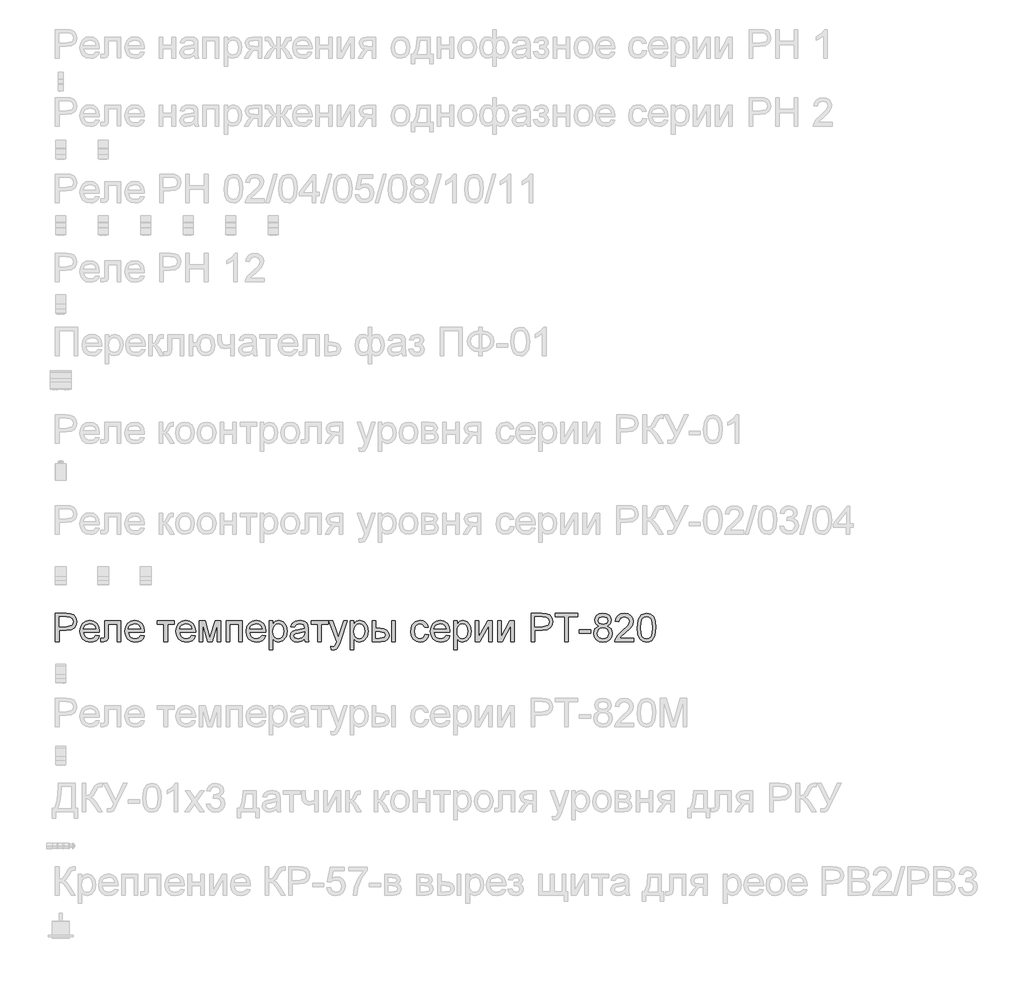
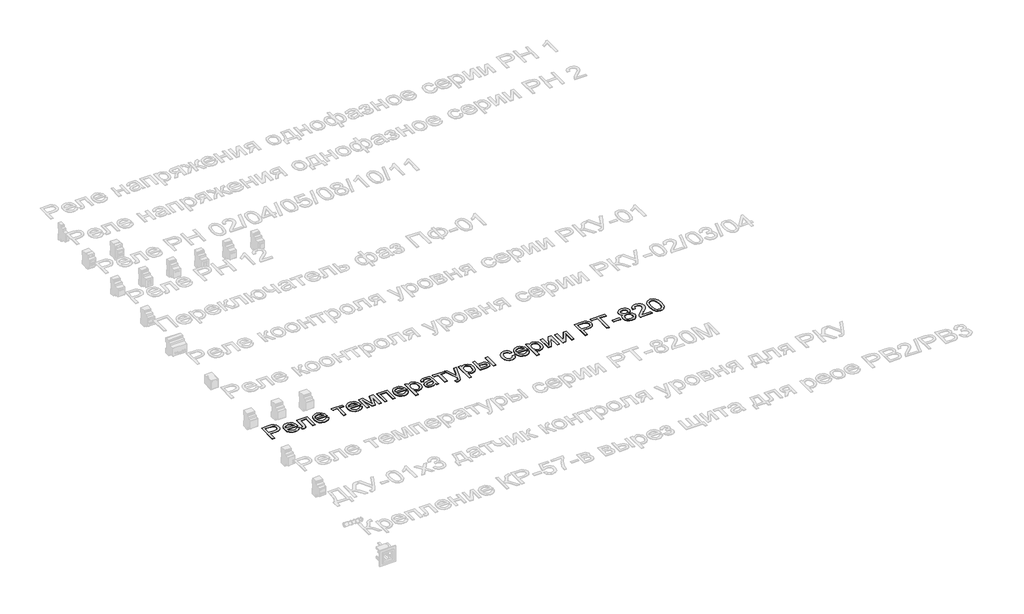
# One storey, part 6 of 34: 1 proxy.
"""IFC4 building model written with IfcOpenShell, lengths in millimetres."""

from ifc_helpers import new_model, si_unit, frame, origin, place, context, project, spatial, polyline, outline, extrude, element, save

model = new_model("IFC4")

# Units and contexts
model_context = context("Model", 3, world=origin())
ifc_project = project(units=[si_unit("LENGTHUNIT", "METRE", prefix="MILLI")], contexts=[model_context])

# Site, building, storey
site = spatial("IfcSite", under=ifc_project)
building = spatial("IfcBuilding", under=site)
storey = spatial("IfcBuildingStorey", under=building, Name="Этаж 01", Elevation=0.0)

# Proxy
placement = place(None, origin())
element("IfcBuildingElementProxy", 1, Name="Надпись на модели 1", ObjectType="Надпись на модели 1", at=placement, inside=storey, context=model_context, shape_type="SweptSolid", body=[
    extrude(outline(polyline([(-19039.0125911, 8386.235284), (-19039.0125911, 8486.6915941), (-19001.7829332, 8486.6915941), (-18986.7733478, 8485.735101), (-18974.5719283, 8481.0384742), (-18966.6624654, 8471.3263895), (-18963.6703585, 8457.6289165), (-18965.6906438, 8445.7892476), (-18971.7514996, 8435.9238788), (-18983.0853308, 8429.2652147), (-19000.9245418, 8427.04566), (-19026.4555523, 8427.04566), (-19026.4555523, 8386.235284), (-19039.0125911, 8386.235284)]), holes=[polyline([(-19026.4555523, 8439.6026988), (-19000.1887779, 8439.6026988), (-18981.6965762, 8444.2134864), (-18977.594692, 8449.7623732), (-18976.2273972, 8457.1874581), (-18979.4524961, 8467.5862559), (-18987.9260447, 8473.2761641), (-19000.4830834, 8474.1345554), (-19026.4555523, 8474.1345554), (-19026.4555523, 8439.6026988)])]), frame((0.0, 0.0, 40.0), z_axis=(0.0, 0.0, 1.0), x_axis=(1.0, 0.0, 0.0)), (0.0, 0.0, 1.0), 2.0),
    extrude(outline(polyline([(-18896.3234279, 8408.2101018), (-18884.0116438, 8406.640472), (-18888.4476875, 8397.3637143), (-18895.5263502, 8390.4291387), (-18905.0882164, 8386.1065253), (-18916.9738705, 8384.6656541), (-18931.7075445, 8387.1519233), (-18943.0444413, 8394.6107308), (-18950.2733225, 8406.5576985), (-18952.6829495, 8422.5084487), (-18950.248797, 8438.9956935), (-18942.9463394, 8451.3258717), (-18931.7627268, 8459.0146054), (-18917.6851091, 8461.5775166), (-18904.0458841, 8459.0207367), (-18893.14738, 8451.3503971), (-18886.0012722, 8439.0447444), (-18883.6192363, 8422.5820251), (-18883.6928127, 8419.1975108), (-18940.1259108, 8419.1975108), (-18937.9523413, 8409.7981258), (-18932.9031609, 8402.8880756), (-18925.6160317, 8398.6390386), (-18916.7286159, 8397.2226929), (-18904.4168318, 8399.8469178), (-18896.3234279, 8408.2101018)]), holes=[polyline([(-18940.1259108, 8431.7545495), (-18896.1762751, 8431.7545495), (-18901.2039957, 8443.1343659), (-18908.5248474, 8447.5489499), (-18917.73416, 8449.0204778), (-18933.1974665, 8444.323851), (-18938.0627059, 8438.8332123), (-18940.1259108, 8431.7545495)])]), frame((0.0, 0.0, 40.0), z_axis=(0.0, 0.0, 1.0), x_axis=(1.0, 0.0, 0.0)), (0.0, 0.0, 1.0), 2.0),
    extrude(outline(polyline([(-18864.7836782, 8460.0078868), (-18808.2770037, 8460.0078868), (-18808.2770037, 8386.3088604), (-18820.8340425, 8386.3088604), (-18820.8340425, 8447.450848), (-18852.2266394, 8447.450848), (-18852.2266394, 8412.2568038), (-18853.072768, 8396.0209451), (-18857.7203439, 8389.1660772), (-18868.7077528, 8386.235284), (-18878.9103468, 8386.8729461), (-18878.9103468, 8398.7923228), (-18873.294015, 8398.7923228), (-18867.6163695, 8399.564875), (-18865.3477639, 8402.0174216), (-18864.7836782, 8412.9680423), (-18864.7836782, 8460.0078868)])), frame((0.0, 0.0, 40.0), z_axis=(0.0, 0.0, 1.0), x_axis=(1.0, 0.0, 0.0)), (0.0, 0.0, 1.0), 2.0),
    extrude(outline(polyline([(-18737.7908134, 8408.2101018), (-18725.4790293, 8406.640472), (-18729.915073, 8397.3637143), (-18736.9937358, 8390.4291387), (-18746.555602, 8386.1065253), (-18758.4412561, 8384.6656541), (-18773.17493, 8387.1519233), (-18784.5118268, 8394.6107308), (-18791.740708, 8406.5576985), (-18794.1503351, 8422.5084487), (-18791.7161826, 8438.9956935), (-18784.4137249, 8451.3258717), (-18773.2301123, 8459.0146054), (-18759.1524946, 8461.5775166), (-18745.5132696, 8459.0207367), (-18734.6147655, 8451.3503971), (-18727.4686578, 8439.0447444), (-18725.0866219, 8422.5820251), (-18725.1601983, 8419.1975108), (-18781.5932963, 8419.1975108), (-18779.4197269, 8409.7981258), (-18774.3705465, 8402.8880756), (-18767.0834173, 8398.6390386), (-18758.1960014, 8397.2226929), (-18745.8842173, 8399.8469178), (-18737.7908134, 8408.2101018)]), holes=[polyline([(-18781.5932963, 8431.7545495), (-18737.6436606, 8431.7545495), (-18742.6713812, 8443.1343659), (-18749.9922329, 8447.5489499), (-18759.2015455, 8449.0204778), (-18774.6648521, 8444.323851), (-18779.5300915, 8438.8332123), (-18781.5932963, 8431.7545495)])]), frame((0.0, 0.0, 40.0), z_axis=(0.0, 0.0, 1.0), x_axis=(1.0, 0.0, 0.0)), (0.0, 0.0, 1.0), 2.0),
    extrude(outline(polyline([(-18679.5673563, 8460.0078868), (-18619.9214222, 8460.0078868), (-18619.9214222, 8447.450848), (-18643.4658699, 8447.450848), (-18643.4658699, 8386.235284), (-18656.0229086, 8386.235284), (-18656.0229086, 8447.450848), (-18679.5673563, 8447.450848), (-18679.5673563, 8460.0078868)])), frame((0.0, 0.0, 40.0), z_axis=(0.0, 0.0, 1.0), x_axis=(1.0, 0.0, 0.0)), (0.0, 0.0, 1.0), 2.0),
    extrude(outline(polyline([(-18557.2833811, 8408.2101018), (-18544.971597, 8406.640472), (-18549.4076407, 8397.3637143), (-18556.4863035, 8390.4291387), (-18566.0481697, 8386.1065253), (-18577.9338238, 8384.6656541), (-18592.6674977, 8387.1519233), (-18604.0043945, 8394.6107308), (-18611.2332757, 8406.5576985), (-18613.6429028, 8422.5084487), (-18611.2087503, 8438.9956935), (-18603.9062926, 8451.3258717), (-18592.72268, 8459.0146054), (-18578.6450623, 8461.5775166), (-18565.0058373, 8459.0207367), (-18554.1073332, 8451.3503971), (-18546.9612255, 8439.0447444), (-18544.5791896, 8422.5820251), (-18544.652766, 8419.1975108), (-18601.085864, 8419.1975108), (-18598.9122946, 8409.7981258), (-18593.8631142, 8402.8880756), (-18586.575985, 8398.6390386), (-18577.6885691, 8397.2226929), (-18565.376785, 8399.8469178), (-18557.2833811, 8408.2101018)]), holes=[polyline([(-18601.085864, 8431.7545495), (-18557.1362283, 8431.7545495), (-18562.1639489, 8443.1343659), (-18569.4848006, 8447.5489499), (-18578.6941132, 8449.0204778), (-18594.1574198, 8444.323851), (-18599.0226592, 8438.8332123), (-18601.085864, 8431.7545495)])]), frame((0.0, 0.0, 40.0), z_axis=(0.0, 0.0, 1.0), x_axis=(1.0, 0.0, 0.0)), (0.0, 0.0, 1.0), 2.0),
    extrude(outline(polyline([(-18532.0221508, 8460.0078868), (-18510.4152149, 8460.0078868), (-18493.7624233, 8400.9505638), (-18475.8097819, 8460.0078868), (-18455.1102883, 8460.0078868), (-18455.1102883, 8386.235284), (-18467.6673271, 8386.235284), (-18467.6673271, 8445.6359635), (-18485.7180703, 8386.235284), (-18502.1991837, 8386.235284), (-18519.465112, 8448.4809176), (-18519.465112, 8386.235284), (-18532.0221508, 8386.235284), (-18532.0221508, 8460.0078868)])), frame((0.0, 0.0, 40.0), z_axis=(0.0, 0.0, 1.0), x_axis=(1.0, 0.0, 0.0)), (0.0, 0.0, 1.0), 2.0),
    extrude(outline(polyline([(-18436.2747302, 8460.0078868), (-18379.7680557, 8460.0078868), (-18379.7680557, 8386.235284), (-18392.3250945, 8386.235284), (-18392.3250945, 8447.450848), (-18423.7176914, 8447.450848), (-18423.7176914, 8386.235284), (-18436.2747302, 8386.235284), (-18436.2747302, 8460.0078868)])), frame((0.0, 0.0, 40.0), z_axis=(0.0, 0.0, 1.0), x_axis=(1.0, 0.0, 0.0)), (0.0, 0.0, 1.0), 2.0),
    extrude(outline(polyline([(-18309.2818654, 8408.2101018), (-18296.9700813, 8406.640472), (-18301.4061251, 8397.3637143), (-18308.4847878, 8390.4291387), (-18318.046654, 8386.1065253), (-18329.9323081, 8384.6656541), (-18344.665982, 8387.1519233), (-18356.0028788, 8394.6107308), (-18363.23176, 8406.5576985), (-18365.6413871, 8422.5084487), (-18363.2072346, 8438.9956935), (-18355.904777, 8451.3258717), (-18344.7211643, 8459.0146054), (-18330.6435466, 8461.5775166), (-18317.0043217, 8459.0207367), (-18306.1058176, 8451.3503971), (-18298.9597098, 8439.0447444), (-18296.5776739, 8422.5820251), (-18296.6512503, 8419.1975108), (-18353.0843483, 8419.1975108), (-18350.9107789, 8409.7981258), (-18345.8615985, 8402.8880756), (-18338.5744693, 8398.6390386), (-18329.6870534, 8397.2226929), (-18317.3752693, 8399.8469178), (-18309.2818654, 8408.2101018)]), holes=[polyline([(-18353.0843483, 8431.7545495), (-18309.1347126, 8431.7545495), (-18314.1624332, 8443.1343659), (-18321.483285, 8447.5489499), (-18330.6925976, 8449.0204778), (-18346.1559041, 8444.323851), (-18351.0211435, 8438.8332123), (-18353.0843483, 8431.7545495)])]), frame((0.0, 0.0, 40.0), z_axis=(0.0, 0.0, 1.0), x_axis=(1.0, 0.0, 0.0)), (0.0, 0.0, 1.0), 2.0),
    extrude(outline(polyline([(-18284.0206351, 8357.9819468), (-18284.0206351, 8460.0078868), (-18271.4635963, 8460.0078868), (-18271.4635963, 8447.6961027), (-18262.7815813, 8458.1071631), (-18251.0584083, 8461.5775166), (-18235.1413807, 8456.7214743), (-18224.742583, 8443.036264), (-18221.2354413, 8423.6856711), (-18225.1963041, 8403.3417968), (-18236.6987478, 8389.4849083), (-18252.5789873, 8384.6656541), (-18263.5050825, 8387.890753), (-18271.4635963, 8396.0454705), (-18271.4635963, 8357.9819468), (-18284.0206351, 8357.9819468)]), holes=[polyline([(-18271.4635963, 8422.5329742), (-18270.1054986, 8411.2757851), (-18266.0312055, 8403.4031104), (-18260.0194006, 8398.7677973), (-18252.8487674, 8397.2226929), (-18245.5616382, 8398.8229796), (-18239.3965491, 8403.6238396), (-18235.1934973, 8411.7846886), (-18233.79248, 8423.4649419), (-18235.1597748, 8434.6608173), (-18239.261659, 8442.6438566), (-18245.2642669, 8447.4263225), (-18252.3337326, 8449.0204778), (-18259.4307894, 8447.325155), (-18265.6633235, 8442.2391864), (-18270.0135281, 8433.9219876), (-18271.4635963, 8422.5329742)])]), frame((0.0, 0.0, 40.0), z_axis=(0.0, 0.0, 1.0), x_axis=(1.0, 0.0, 0.0)), (0.0, 0.0, 1.0), 2.0),
    extrude(outline(polyline([(-18160.0198773, 8395.6530631), (-18172.1967713, 8387.1427262), (-18185.6489896, 8384.6656541), (-18196.1428235, 8386.1555762), (-18203.8836738, 8390.6253425), (-18208.6569427, 8397.4127653), (-18210.2480323, 8405.8556571), (-18207.8445366, 8415.7884709), (-18201.5292291, 8422.998958), (-18192.7368494, 8427.1192364), (-18181.8720678, 8429.0076973), (-18160.0934537, 8433.3241794), (-18160.0198773, 8436.1200825), (-18163.477968, 8445.3907088), (-18177.359382, 8449.0204778), (-18190.0635735, 8446.6047194), (-18196.1213637, 8438.0330689), (-18208.6784025, 8439.6026988), (-18203.2460117, 8451.8654319), (-18192.3076537, 8459.0513936), (-18175.7407012, 8461.5775166), (-18160.5226493, 8459.3456992), (-18151.9264734, 8453.7416301), (-18148.0759752, 8445.2190306), (-18147.4628385, 8434.2316216), (-18147.4628385, 8418.6088996), (-18146.8251764, 8396.7934973), (-18144.3235788, 8386.235284), (-18156.8806176, 8386.235284), (-18160.0198773, 8395.6530631)]), holes=[polyline([(-18160.0198773, 8420.7671406), (-18180.2779125, 8416.9166424), (-18191.0813804, 8414.8810287), (-18195.9742109, 8411.5700907), (-18197.6909936, 8406.7385739), (-18193.95086, 8399.9450197), (-18182.9757138, 8397.2226929), (-18170.2715222, 8400.2270625), (-18162.0800164, 8407.4988633), (-18160.0934537, 8417.210948), (-18160.0198773, 8420.7671406)])]), frame((0.0, 0.0, 40.0), z_axis=(0.0, 0.0, 1.0), x_axis=(1.0, 0.0, 0.0)), (0.0, 0.0, 1.0), 2.0),
    extrude(outline(polyline([(-18136.4754296, 8460.0078868), (-18076.8294954, 8460.0078868), (-18076.8294954, 8447.450848), (-18100.3739431, 8447.450848), (-18100.3739431, 8386.235284), (-18112.9309819, 8386.235284), (-18112.9309819, 8447.450848), (-18136.4754296, 8447.450848), (-18136.4754296, 8460.0078868)])), frame((0.0, 0.0, 40.0), z_axis=(0.0, 0.0, 1.0), x_axis=(1.0, 0.0, 0.0)), (0.0, 0.0, 1.0), 2.0),
    extrude(outline(polyline([(-18065.8420865, 8357.9819468), (-18067.4117163, 8370.0730017), (-18061.0350951, 8368.9693557), (-18055.0754068, 8370.3550445), (-18051.4211123, 8374.2178055), (-18047.987547, 8383.4639063), (-18047.0065283, 8386.5050641), (-18073.6902357, 8460.0078868), (-18060.4464839, 8460.0078868), (-18046.2952898, 8419.050358), (-18041.3656711, 8402.6673464), (-18036.4360524, 8417.1373716), (-18021.8924508, 8460.0078868), (-18008.7468009, 8460.0078868), (-18034.4249641, 8384.4694504), (-18041.095891, 8368.0864389), (-18048.3799545, 8359.2327455), (-18058.1656155, 8356.4123169), (-18065.8420865, 8357.9819468)])), frame((0.0, 0.0, 40.0), z_axis=(0.0, 0.0, 1.0), x_axis=(1.0, 0.0, 0.0)), (0.0, 0.0, 1.0), 2.0),
    extrude(outline(polyline([(-17998.3480031, 8357.9819468), (-17998.3480031, 8460.0078868), (-17985.7909644, 8460.0078868), (-17985.7909644, 8447.6961027), (-17977.1089493, 8458.1071631), (-17965.3857764, 8461.5775166), (-17949.4687487, 8456.7214743), (-17939.069951, 8443.036264), (-17935.5628093, 8423.6856711), (-17939.5236721, 8403.3417968), (-17951.0261158, 8389.4849083), (-17966.9063553, 8384.6656541), (-17977.8324505, 8387.890753), (-17985.7909644, 8396.0454705), (-17985.7909644, 8357.9819468), (-17998.3480031, 8357.9819468)]), holes=[polyline([(-17985.7909644, 8422.5329742), (-17984.4328667, 8411.2757851), (-17980.3585736, 8403.4031104), (-17974.3467686, 8398.7677973), (-17967.1761354, 8397.2226929), (-17959.8890062, 8398.8229796), (-17953.7239171, 8403.6238396), (-17949.5208653, 8411.7846886), (-17948.119848, 8423.4649419), (-17949.4871428, 8434.6608173), (-17953.589027, 8442.6438566), (-17959.5916349, 8447.4263225), (-17966.6611006, 8449.0204778), (-17973.7581574, 8447.325155), (-17979.9906916, 8442.2391864), (-17984.3408962, 8433.9219876), (-17985.7909644, 8422.5329742)])]), frame((0.0, 0.0, 40.0), z_axis=(0.0, 0.0, 1.0), x_axis=(1.0, 0.0, 0.0)), (0.0, 0.0, 1.0), 2.0),
    extrude(outline(polyline([(-17852.3724274, 8460.0078868), (-17839.8153887, 8460.0078868), (-17839.8153887, 8386.235284), (-17852.3724274, 8386.235284), (-17852.3724274, 8460.0078868)])), frame((0.0, 0.0, 40.0), z_axis=(0.0, 0.0, 1.0), x_axis=(1.0, 0.0, 0.0)), (0.0, 0.0, 1.0), 2.0),
    extrude(outline(polyline([(-17921.4361407, 8460.0078868), (-17908.8791019, 8460.0078868), (-17908.8791019, 8433.3241794), (-17893.3544817, 8433.3241794), (-17879.9359859, 8431.7514838), (-17869.993975, 8427.0333973), (-17863.8411486, 8419.5500643), (-17861.7902065, 8409.6816298), (-17863.5100548, 8400.6961121), (-17868.6695998, 8393.1146773), (-17877.6060666, 8387.9551323), (-17890.6566804, 8386.235284), (-17921.4361407, 8386.235284), (-17921.4361407, 8460.0078868)]), holes=[polyline([(-17908.8791019, 8398.7923228), (-17895.9787066, 8398.7923228), (-17879.3259149, 8401.4288104), (-17874.3472453, 8409.6571044), (-17878.038328, 8417.3826263), (-17894.3355004, 8420.7671406), (-17908.8791019, 8420.7671406), (-17908.8791019, 8398.7923228)])]), frame((0.0, 0.0, 40.0), z_axis=(0.0, 0.0, 1.0), x_axis=(1.0, 0.0, 0.0)), (0.0, 0.0, 1.0), 2.0),
    extrude(outline(polyline([(-17734.650189, 8412.9189914), (-17722.0931502, 8411.3493615), (-17725.5941605, 8400.1810773), (-17732.1731169, 8391.7412512), (-17741.2107512, 8386.4345534), (-17752.0877955, 8384.6656541), (-17765.4449777, 8387.1335292), (-17775.8897606, 8394.5371544), (-17782.6311982, 8406.5515672), (-17784.8783441, 8422.8518052), (-17781.0401086, 8443.7107144), (-17769.3414611, 8457.1138817), (-17752.2594738, 8461.5775166), (-17741.6491439, 8460.044675), (-17733.1663983, 8455.44615), (-17727.0810169, 8448.0271964), (-17723.6627801, 8438.0330689), (-17736.2198188, 8436.4634391), (-17742.0446171, 8445.8689554), (-17752.1613719, 8449.0204778), (-17760.2762356, 8447.4692421), (-17766.7172362, 8442.8155349), (-17770.920288, 8434.8079701), (-17772.3213053, 8423.1951618), (-17770.9509449, 8411.4260036), (-17766.8398636, 8403.3908477), (-17760.5153589, 8398.7647316), (-17752.5047285, 8397.2226929), (-17740.671191, 8401.0731911), (-17734.650189, 8412.9189914)])), frame((0.0, 0.0, 40.0), z_axis=(0.0, 0.0, 1.0), x_axis=(1.0, 0.0, 0.0)), (0.0, 0.0, 1.0), 2.0),
    extrude(outline(polyline([(-17659.4551092, 8408.2101018), (-17647.1433251, 8406.640472), (-17651.5793688, 8397.3637143), (-17658.6580315, 8390.4291387), (-17668.2198977, 8386.1065253), (-17680.1055518, 8384.6656541), (-17694.8392257, 8387.1519233), (-17706.1761226, 8394.6107308), (-17713.4050038, 8406.5576985), (-17715.8146308, 8422.5084487), (-17713.3804783, 8438.9956935), (-17706.0780207, 8451.3258717), (-17694.894408, 8459.0146054), (-17680.8167904, 8461.5775166), (-17667.1775654, 8459.0207367), (-17656.2790613, 8451.3503971), (-17649.1329535, 8439.0447444), (-17646.7509176, 8422.5820251), (-17646.824494, 8419.1975108), (-17703.2575921, 8419.1975108), (-17701.0840226, 8409.7981258), (-17696.0348422, 8402.8880756), (-17688.747713, 8398.6390386), (-17679.8602972, 8397.2226929), (-17667.5485131, 8399.8469178), (-17659.4551092, 8408.2101018)]), holes=[polyline([(-17703.2575921, 8431.7545495), (-17659.3079564, 8431.7545495), (-17664.335677, 8443.1343659), (-17671.6565287, 8447.5489499), (-17680.8658413, 8449.0204778), (-17696.3291478, 8444.323851), (-17701.1943872, 8438.8332123), (-17703.2575921, 8431.7545495)])]), frame((0.0, 0.0, 40.0), z_axis=(0.0, 0.0, 1.0), x_axis=(1.0, 0.0, 0.0)), (0.0, 0.0, 1.0), 2.0),
    extrude(outline(polyline([(-17634.1938788, 8357.9819468), (-17634.1938788, 8460.0078868), (-17621.6368401, 8460.0078868), (-17621.6368401, 8447.6961027), (-17612.954825, 8458.1071631), (-17601.2316521, 8461.5775166), (-17585.3146244, 8456.7214743), (-17574.9158267, 8443.036264), (-17571.408685, 8423.6856711), (-17575.3695478, 8403.3417968), (-17586.8719915, 8389.4849083), (-17602.752231, 8384.6656541), (-17613.6783262, 8387.890753), (-17621.6368401, 8396.0454705), (-17621.6368401, 8357.9819468), (-17634.1938788, 8357.9819468)]), holes=[polyline([(-17621.6368401, 8422.5329742), (-17620.2787424, 8411.2757851), (-17616.2044493, 8403.4031104), (-17610.1926443, 8398.7677973), (-17603.0220111, 8397.2226929), (-17595.7348819, 8398.8229796), (-17589.5697928, 8403.6238396), (-17585.366741, 8411.7846886), (-17583.9657238, 8423.4649419), (-17585.3330185, 8434.6608173), (-17589.4349027, 8442.6438566), (-17595.4375106, 8447.4263225), (-17602.5069763, 8449.0204778), (-17609.6040331, 8447.325155), (-17615.8365673, 8442.2391864), (-17620.1867719, 8433.9219876), (-17621.6368401, 8422.5329742)])]), frame((0.0, 0.0, 40.0), z_axis=(0.0, 0.0, 1.0), x_axis=(1.0, 0.0, 0.0)), (0.0, 0.0, 1.0), 2.0),
    extrude(outline(polyline([(-17557.2820164, 8460.0078868), (-17544.7249776, 8460.0078868), (-17544.7249776, 8403.746467), (-17513.8719409, 8460.0078868), (-17497.6360822, 8460.0078868), (-17497.6360822, 8386.235284), (-17510.193121, 8386.235284), (-17510.193121, 8442.1533473), (-17540.8499539, 8386.235284), (-17557.2820164, 8386.235284), (-17557.2820164, 8460.0078868)])), frame((0.0, 0.0, 40.0), z_axis=(0.0, 0.0, 1.0), x_axis=(1.0, 0.0, 0.0)), (0.0, 0.0, 1.0), 2.0),
    extrude(outline(polyline([(-17478.8005241, 8460.0078868), (-17466.2434853, 8460.0078868), (-17466.2434853, 8403.746467), (-17435.3904486, 8460.0078868), (-17419.1545899, 8460.0078868), (-17419.1545899, 8386.235284), (-17431.7116287, 8386.235284), (-17431.7116287, 8442.1533473), (-17462.3684616, 8386.235284), (-17478.8005241, 8386.235284), (-17478.8005241, 8460.0078868)])), frame((0.0, 0.0, 40.0), z_axis=(0.0, 0.0, 1.0), x_axis=(1.0, 0.0, 0.0)), (0.0, 0.0, 1.0), 2.0),
    extrude(outline(polyline([(-17359.5086558, 8386.235284), (-17359.5086558, 8486.6915941), (-17322.2789979, 8486.6915941), (-17307.2694124, 8485.735101), (-17295.0679929, 8481.0384742), (-17287.15853, 8471.3263895), (-17284.1664232, 8457.6289165), (-17286.1867084, 8445.7892476), (-17292.2475643, 8435.9238788), (-17303.5813954, 8429.2652147), (-17321.4206065, 8427.04566), (-17346.951617, 8427.04566), (-17346.951617, 8386.235284), (-17359.5086558, 8386.235284)]), holes=[polyline([(-17346.951617, 8439.6026988), (-17320.6848425, 8439.6026988), (-17302.1926409, 8444.2134864), (-17298.0907567, 8449.7623732), (-17296.7234619, 8457.1874581), (-17299.9485607, 8467.5862559), (-17308.4221094, 8473.2761641), (-17320.9791481, 8474.1345554), (-17346.951617, 8474.1345554), (-17346.951617, 8439.6026988)])]), frame((0.0, 0.0, 40.0), z_axis=(0.0, 0.0, 1.0), x_axis=(1.0, 0.0, 0.0)), (0.0, 0.0, 1.0), 2.0),
    extrude(outline(polyline([(-17241.7864173, 8386.235284), (-17241.7864173, 8474.1345554), (-17274.7486441, 8474.1345554), (-17274.7486441, 8486.6915941), (-17196.2671518, 8486.6915941), (-17196.2671518, 8474.1345554), (-17229.2293785, 8474.1345554), (-17229.2293785, 8386.235284), (-17241.7864173, 8386.235284)])), frame((0.0, 0.0, 40.0), z_axis=(0.0, 0.0, 1.0), x_axis=(1.0, 0.0, 0.0)), (0.0, 0.0, 1.0), 2.0),
    extrude(outline(polyline([(-17189.9886324, 8416.0582511), (-17189.9886324, 8428.6152898), (-17150.7478862, 8428.6152898), (-17150.7478862, 8416.0582511), (-17189.9886324, 8416.0582511)])), frame((0.0, 0.0, 40.0), z_axis=(0.0, 0.0, 1.0), x_axis=(1.0, 0.0, 0.0)), (0.0, 0.0, 1.0), 2.0),
    extrude(outline(polyline([(-17121.4644794, 8441.5647361), (-17132.9056095, 8449.3638344), (-17136.6212176, 8461.5039402), (-17134.5978666, 8471.3202581), (-17128.5278137, 8479.4320561), (-17119.0916405, 8484.8767096), (-17106.9699288, 8486.6915941), (-17094.7746407, 8484.8337901), (-17085.2158402, 8479.2603778), (-17079.0354226, 8471.0198211), (-17076.9752835, 8461.1605837), (-17080.6418407, 8449.3270462), (-17091.7641397, 8441.5647361), (-17078.4100232, 8431.7177613), (-17073.8360238, 8415.4696399), (-17076.1046294, 8403.4644241), (-17082.9104463, 8393.543873), (-17093.4196087, 8386.8852089), (-17106.7982505, 8384.6656541), (-17120.1768924, 8386.8944059), (-17130.6860548, 8393.5806612), (-17137.4918717, 8403.5962485), (-17139.7604773, 8415.8129964), (-17135.0025368, 8432.4412626), (-17121.4644794, 8441.5647361)]), holes=[polyline([(-17127.2034385, 8416.2544548), (-17125.1065112, 8406.7998875), (-17117.6875576, 8399.7242905), (-17106.7001487, 8397.2226929), (-17098.1530237, 8398.537871), (-17091.7396142, 8402.4834054), (-17086.3930625, 8415.8620473), (-17091.9112925, 8429.4982066), (-17098.4718547, 8433.5449086), (-17107.1170816, 8434.8938092), (-17115.544645, 8433.5633027), (-17121.8936751, 8429.571783), (-17127.2034385, 8416.2544548)]), polyline([(-17124.0641789, 8461.1360582), (-17119.6128067, 8451.2768207), (-17106.6510977, 8447.450848), (-17093.9469062, 8451.2522953), (-17089.5323222, 8460.5719725), (-17094.094059, 8470.2227435), (-17106.7982505, 8474.1345554), (-17119.5392303, 8470.3085826), (-17124.0641789, 8461.1360582)])]), frame((0.0, 0.0, 40.0), z_axis=(0.0, 0.0, 1.0), x_axis=(1.0, 0.0, 0.0)), (0.0, 0.0, 1.0), 2.0),
    extrude(outline(polyline([(-16998.4937912, 8398.7923228), (-16998.4937912, 8386.235284), (-17064.4182447, 8386.235284), (-17063.0693441, 8394.8927736), (-17055.441924, 8408.2223646), (-17039.7211001, 8422.7782288), (-17018.0405878, 8443.6984516), (-17012.6204598, 8457.9232221), (-17017.7340195, 8469.4379286), (-17031.0881359, 8474.1345554), (-17045.0063381, 8469.5482932), (-17050.2915761, 8456.8686271), (-17062.8486149, 8458.4382569), (-17059.8043913, 8470.5844941), (-17053.2223693, 8479.4565816), (-17043.4459053, 8484.882841), (-17030.8183558, 8486.6915941), (-17018.0988358, 8484.6805059), (-17008.3407659, 8478.6472412), (-17002.1327572, 8469.6341323), (-17000.063421, 8458.6835116), (-17002.2952384, 8446.7763977), (-17009.714192, 8434.4646136), (-17027.7036216, 8417.2599989), (-17042.1491213, 8405.1812067), (-17047.814504, 8398.7923228), (-16998.4937912, 8398.7923228)])), frame((0.0, 0.0, 40.0), z_axis=(0.0, 0.0, 1.0), x_axis=(1.0, 0.0, 0.0)), (0.0, 0.0, 1.0), 2.0),
    extrude(outline(polyline([(-16985.9367524, 8435.6540987), (-16982.2456697, 8464.5573608), (-16971.2827863, 8481.2224151), (-16952.9745256, 8486.6915941), (-16938.3082968, 8483.4542326), (-16928.1792792, 8474.1222926), (-16922.2931672, 8459.25986), (-16920.0122989, 8435.6540987), (-16923.6665933, 8406.8734639), (-16934.5926886, 8390.1716213), (-16942.8240482, 8386.0421459), (-16952.9745256, 8384.6656541), (-16966.0220737, 8387.0568871), (-16975.9303621, 8394.230586), (-16983.4351548, 8411.2206028), (-16985.9367524, 8435.6540987)]), holes=[polyline([(-16973.3797136, 8435.6786241), (-16971.9081856, 8415.9264267), (-16967.4936017, 8404.4944937), (-16960.9207767, 8399.0406431), (-16952.9745256, 8397.2226929), (-16945.0282745, 8399.0467745), (-16938.4554496, 8404.5190192), (-16934.0408656, 8415.9570835), (-16932.5693376, 8435.6786241), (-16933.9918147, 8454.9862975), (-16938.2592458, 8466.5071353), (-16944.8198081, 8472.2277004), (-16953.1216784, 8474.1345554), (-16960.9820904, 8472.4545609), (-16967.297398, 8467.4145776), (-16971.8591347, 8455.1763699), (-16973.3797136, 8435.6786241)])]), frame((0.0, 0.0, 40.0), z_axis=(0.0, 0.0, 1.0), x_axis=(1.0, 0.0, 0.0)), (0.0, 0.0, 1.0), 2.0),
])

save(model, "model.ifc")
